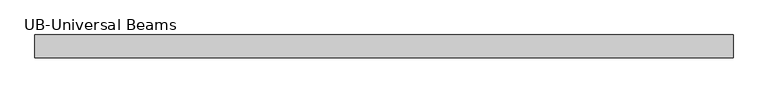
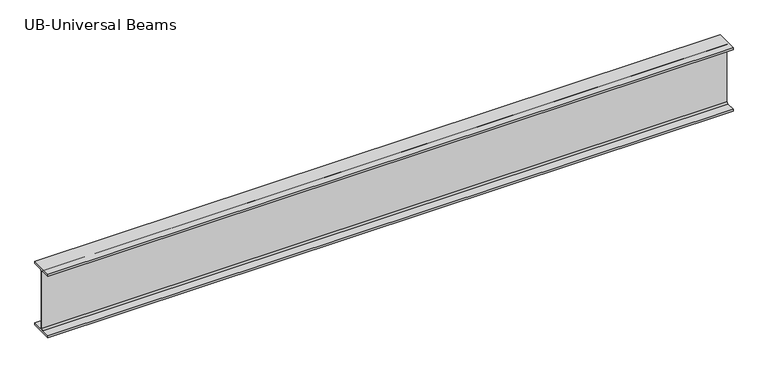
"""IFC4 building model written with IfcOpenShell, lengths in millimetres: beam geometry."""

from ifc_helpers import new_model, si_unit, point, frame, frame_2d, origin, place, context, project, spatial, polyline, circle_curve, trimmed, segment, composite_curve, outline, extrude, source, transform, mapped, element, save


def ub_universal_beams_20791346(model_context):
    return source(origin(), model_context, "Body", "SweptSolid", [
        extrude(outline(composite_curve([segment(polyline([(76.9, -214.0), (76.9, -229.0), (-76.9, -229.0), (-76.9, -214.0), (-14.7, -214.0)]), True, "CONTINUOUS"), segment(trimmed(circle_curve(frame_2d((-14.7, -203.8)), 10.2), [point((-14.7, -214.0))], [point((-4.5, -203.8))], True, "CARTESIAN"), True, "CONTINUOUS"), segment(polyline([(-4.5, -203.8), (-4.5, 203.8)]), True, "CONTINUOUS"), segment(trimmed(circle_curve(frame_2d((-14.7, 203.8)), 10.2), [point((-4.5, 203.8))], [point((-14.7, 214.0))], True, "CARTESIAN"), True, "CONTINUOUS"), segment(polyline([(-14.7, 214.0), (-76.9, 214.0), (-76.9, 229.0), (76.9, 229.0), (76.9, 214.0), (14.7, 214.0)]), True, "CONTINUOUS"), segment(trimmed(circle_curve(frame_2d((14.7, 203.8)), 10.2), [point((14.7, 214.0))], [point((4.5, 203.8))], True, "CARTESIAN"), True, "CONTINUOUS"), segment(polyline([(4.5, 203.8), (4.5, -203.8)]), True, "CONTINUOUS"), segment(trimmed(circle_curve(frame_2d((14.7, -203.8)), 10.2), [point((4.5, -203.8))], [point((14.7, -214.0))], True, "CARTESIAN"), True, "CONTINUOUS"), segment(polyline([(14.7, -214.0), (76.9, -214.0)]), True, "CONTINUOUS")], self_intersect=False)), frame((-2329.4, 0.0, 0.0), z_axis=(1.0, 0.0, 0.0), x_axis=(0.0, 1.0, 0.0)), (0.0, 0.0, 1.0), 4666.7),
    ])


if __name__ == "__main__":
    model = new_model("IFC4")
    model_context = context("Model", 3, world=origin())
    ifc_project = project(units=[si_unit("LENGTHUNIT", "METRE", prefix="MILLI")], contexts=[model_context])
    site = spatial("IfcSite", under=ifc_project)
    building = spatial("IfcBuilding", under=site)
    placement = place(None, origin())
    ub_universal_beams_shape = ub_universal_beams_20791346(model_context)
    element("IfcBeam", 1, ObjectType="UB-Universal Beams : UB 18\" x 6\" x 2 1/2\"", at=placement, inside=building, context=model_context, shape_type="MappedRepresentation", body=[
        mapped(ub_universal_beams_shape, transform((0.0, 0.0, 0.0), x_axis=(1.0, 0.0, 0.0), y_axis=(0.0, 1.0, 0.0), z_axis=(0.0, 0.0, 1.0))),
    ])
    save(model, "model.ifc")
